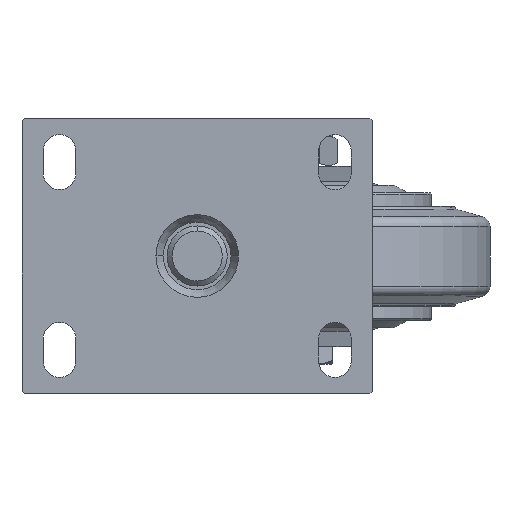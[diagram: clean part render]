
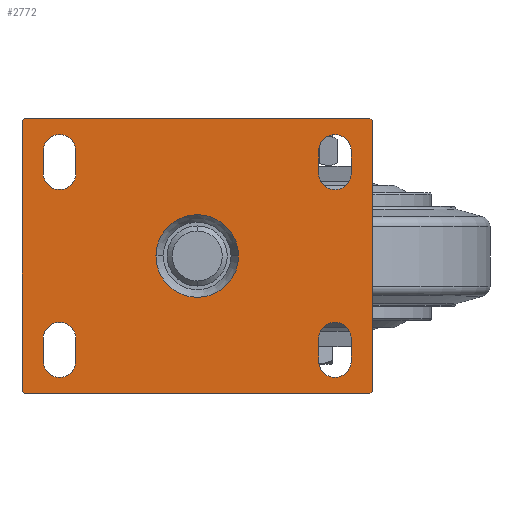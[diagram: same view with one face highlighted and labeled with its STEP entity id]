
A CAD part, top view. The second image highlights one B-rep face of the part: STEP entity #2772.
In plain terms, the highlighted planar face has unit normal (0, 0, 1).
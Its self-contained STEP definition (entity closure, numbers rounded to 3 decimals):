
#2129=DIRECTION('',(0.707,-0.707,0.));
#2130=VECTOR('',#2129,1.414);
#2131=CARTESIAN_POINT('',(-112.,-54.,122.));
#2132=LINE('',#2131,#2130);
#2133=DIRECTION('',(0.,-1.,0.));
#2134=VECTOR('',#2133,108.);
#2135=CARTESIAN_POINT('',(-112.,54.,122.));
#2136=LINE('',#2135,#2134);
#2137=DIRECTION('',(-0.707,-0.707,0.));
#2138=VECTOR('',#2137,1.414);
#2139=CARTESIAN_POINT('',(-111.,55.,122.));
#2140=LINE('',#2139,#2138);
#2141=DIRECTION('',(-1.,0.,0.));
#2142=VECTOR('',#2141,138.);
#2143=CARTESIAN_POINT('',(27.,55.,122.));
#2144=LINE('',#2143,#2142);
#2145=DIRECTION('',(-0.707,0.707,0.));
#2146=VECTOR('',#2145,1.414);
#2147=CARTESIAN_POINT('',(28.,54.,122.));
#2148=LINE('',#2147,#2146);
#2149=DIRECTION('',(0.,1.,0.));
#2150=VECTOR('',#2149,108.);
#2151=CARTESIAN_POINT('',(28.,-54.,122.));
#2152=LINE('',#2151,#2150);
#2153=DIRECTION('',(0.707,0.707,0.));
#2154=VECTOR('',#2153,1.414);
#2155=CARTESIAN_POINT('',(27.,-55.,122.));
#2156=LINE('',#2155,#2154);
#2157=DIRECTION('',(1.,0.,0.));
#2158=VECTOR('',#2157,138.);
#2159=CARTESIAN_POINT('',(-111.,-55.,122.));
#2160=LINE('',#2159,#2158);
#2161=CARTESIAN_POINT('',(-42.,0.,122.));
#2162=DIRECTION('',(0.,0.,-1.));
#2163=DIRECTION('',(-1.,0.,0.));
#2164=AXIS2_PLACEMENT_3D('',#2161,#2162,#2163);
#2166=CARTESIAN_POINT('',(-42.,0.,122.));
#2167=DIRECTION('',(0.,0.,-1.));
#2168=DIRECTION('',(1.,0.,0.));
#2169=AXIS2_PLACEMENT_3D('',#2166,#2167,#2168);
#2171=CARTESIAN_POINT('',(13.,33.,122.));
#2172=DIRECTION('',(0.,0.,1.));
#2173=DIRECTION('',(-1.,0.,0.));
#2174=AXIS2_PLACEMENT_3D('',#2171,#2172,#2173);
#2176=DIRECTION('',(0.,1.,0.));
#2177=VECTOR('',#2176,9.);
#2178=CARTESIAN_POINT('',(19.5,33.,122.));
#2179=LINE('',#2178,#2177);
#2180=CARTESIAN_POINT('',(13.,42.,122.));
#2181=DIRECTION('',(0.,0.,1.));
#2182=DIRECTION('',(1.,0.,0.));
#2183=AXIS2_PLACEMENT_3D('',#2180,#2181,#2182);
#2185=DIRECTION('',(0.,-1.,0.));
#2186=VECTOR('',#2185,9.);
#2187=CARTESIAN_POINT('',(6.5,42.,122.));
#2188=LINE('',#2187,#2186);
#2189=CARTESIAN_POINT('',(-97.,33.,122.));
#2190=DIRECTION('',(0.,0.,-1.));
#2191=DIRECTION('',(1.,0.,0.));
#2192=AXIS2_PLACEMENT_3D('',#2189,#2190,#2191);
#2194=DIRECTION('',(0.,-1.,0.));
#2195=VECTOR('',#2194,9.);
#2196=CARTESIAN_POINT('',(-90.5,42.,122.));
#2197=LINE('',#2196,#2195);
#2198=CARTESIAN_POINT('',(-97.,42.,122.));
#2199=DIRECTION('',(0.,0.,-1.));
#2200=DIRECTION('',(-1.,0.,0.));
#2201=AXIS2_PLACEMENT_3D('',#2198,#2199,#2200);
#2203=DIRECTION('',(0.,1.,0.));
#2204=VECTOR('',#2203,9.);
#2205=CARTESIAN_POINT('',(-103.5,33.,122.));
#2206=LINE('',#2205,#2204);
#2207=CARTESIAN_POINT('',(13.,-33.,122.));
#2208=DIRECTION('',(0.,0.,-1.));
#2209=DIRECTION('',(-1.,0.,0.));
#2210=AXIS2_PLACEMENT_3D('',#2207,#2208,#2209);
#2212=DIRECTION('',(0.,1.,0.));
#2213=VECTOR('',#2212,9.);
#2214=CARTESIAN_POINT('',(6.5,-42.,122.));
#2215=LINE('',#2214,#2213);
#2216=CARTESIAN_POINT('',(13.,-42.,122.));
#2217=DIRECTION('',(0.,0.,-1.));
#2218=DIRECTION('',(1.,0.,0.));
#2219=AXIS2_PLACEMENT_3D('',#2216,#2217,#2218);
#2221=DIRECTION('',(0.,-1.,0.));
#2222=VECTOR('',#2221,9.);
#2223=CARTESIAN_POINT('',(19.5,-33.,122.));
#2224=LINE('',#2223,#2222);
#2225=CARTESIAN_POINT('',(-97.,-33.,122.));
#2226=DIRECTION('',(0.,0.,1.));
#2227=DIRECTION('',(1.,0.,0.));
#2228=AXIS2_PLACEMENT_3D('',#2225,#2226,#2227);
#2230=DIRECTION('',(0.,-1.,0.));
#2231=VECTOR('',#2230,9.);
#2232=CARTESIAN_POINT('',(-103.5,-33.,122.));
#2233=LINE('',#2232,#2231);
#2234=CARTESIAN_POINT('',(-97.,-42.,122.));
#2235=DIRECTION('',(0.,0.,1.));
#2236=DIRECTION('',(-1.,0.,0.));
#2237=AXIS2_PLACEMENT_3D('',#2234,#2235,#2236);
#2239=DIRECTION('',(0.,1.,0.));
#2240=VECTOR('',#2239,9.);
#2241=CARTESIAN_POINT('',(-90.5,-42.,122.));
#2242=LINE('',#2241,#2240);
#2341=CARTESIAN_POINT('',(-112.,-54.,122.));
#2342=VERTEX_POINT('',#2341);
#2343=CARTESIAN_POINT('',(-111.,-55.,122.));
#2344=VERTEX_POINT('',#2343);
#2349=CARTESIAN_POINT('',(-111.,55.,122.));
#2350=VERTEX_POINT('',#2349);
#2351=CARTESIAN_POINT('',(-112.,54.,122.));
#2352=VERTEX_POINT('',#2351);
#2357=CARTESIAN_POINT('',(27.,-55.,122.));
#2358=VERTEX_POINT('',#2357);
#2359=CARTESIAN_POINT('',(28.,-54.,122.));
#2360=VERTEX_POINT('',#2359);
#2365=CARTESIAN_POINT('',(28.,54.,122.));
#2366=VERTEX_POINT('',#2365);
#2367=CARTESIAN_POINT('',(27.,55.,122.));
#2368=VERTEX_POINT('',#2367);
#2369=CARTESIAN_POINT('',(-58.5,0.,122.));
#2370=CARTESIAN_POINT('',(-25.5,0.,122.));
#2371=VERTEX_POINT('',#2369);
#2372=VERTEX_POINT('',#2370);
#2385=CARTESIAN_POINT('',(6.5,33.,122.));
#2386=CARTESIAN_POINT('',(19.5,33.,122.));
#2387=VERTEX_POINT('',#2385);
#2388=VERTEX_POINT('',#2386);
#2389=CARTESIAN_POINT('',(19.5,42.,122.));
#2390=VERTEX_POINT('',#2389);
#2391=CARTESIAN_POINT('',(6.5,42.,122.));
#2392=VERTEX_POINT('',#2391);
#2394=CARTESIAN_POINT('',(-90.5,33.,122.));
#2396=VERTEX_POINT('',#2394);
#2398=CARTESIAN_POINT('',(-103.5,33.,122.));
#2400=VERTEX_POINT('',#2398);
#2402=CARTESIAN_POINT('',(-103.5,42.,122.));
#2404=VERTEX_POINT('',#2402);
#2406=CARTESIAN_POINT('',(-90.5,42.,122.));
#2408=VERTEX_POINT('',#2406);
#2410=CARTESIAN_POINT('',(6.5,-33.,122.));
#2412=VERTEX_POINT('',#2410);
#2414=CARTESIAN_POINT('',(19.5,-33.,122.));
#2416=VERTEX_POINT('',#2414);
#2418=CARTESIAN_POINT('',(19.5,-42.,122.));
#2420=VERTEX_POINT('',#2418);
#2422=CARTESIAN_POINT('',(6.5,-42.,122.));
#2424=VERTEX_POINT('',#2422);
#2426=CARTESIAN_POINT('',(-90.5,-33.,122.));
#2428=VERTEX_POINT('',#2426);
#2430=CARTESIAN_POINT('',(-103.5,-33.,122.));
#2432=VERTEX_POINT('',#2430);
#2434=CARTESIAN_POINT('',(-103.5,-42.,122.));
#2436=VERTEX_POINT('',#2434);
#2438=CARTESIAN_POINT('',(-90.5,-42.,122.));
#2440=VERTEX_POINT('',#2438);
#2711=CARTESIAN_POINT('',(-42.,0.,122.));
#2712=DIRECTION('',(0.,0.,1.));
#2713=DIRECTION('',(-1.,0.,0.));
#2714=AXIS2_PLACEMENT_3D('',#2711,#2712,#2713);
#2715=PLANE('',#2714);
#2716=ORIENTED_EDGE('',*,*,#2551,.F.);
#2717=ORIENTED_EDGE('',*,*,#2574,.F.);
#2718=ORIENTED_EDGE('',*,*,#2594,.F.);
#2719=ORIENTED_EDGE('',*,*,#2616,.F.);
#2720=ORIENTED_EDGE('',*,*,#2636,.F.);
#2721=ORIENTED_EDGE('',*,*,#2656,.F.);
#2722=ORIENTED_EDGE('',*,*,#2678,.F.);
#2723=ORIENTED_EDGE('',*,*,#2697,.F.);
#2724=EDGE_LOOP('',(#2716,#2717,#2718,#2719,#2720,#2721,#2722,#2723));
#2725=FACE_OUTER_BOUND('',#2724,.F.);
#2727=ORIENTED_EDGE('',*,*,#2726,.F.);
#2729=ORIENTED_EDGE('',*,*,#2728,.F.);
#2730=EDGE_LOOP('',(#2727,#2729));
#2731=FACE_BOUND('',#2730,.F.);
#2733=ORIENTED_EDGE('',*,*,#2732,.T.);
#2735=ORIENTED_EDGE('',*,*,#2734,.T.);
#2737=ORIENTED_EDGE('',*,*,#2736,.T.);
#2739=ORIENTED_EDGE('',*,*,#2738,.T.);
#2740=EDGE_LOOP('',(#2733,#2735,#2737,#2739));
#2741=FACE_BOUND('',#2740,.F.);
#2743=ORIENTED_EDGE('',*,*,#2742,.F.);
#2745=ORIENTED_EDGE('',*,*,#2744,.F.);
#2747=ORIENTED_EDGE('',*,*,#2746,.F.);
#2749=ORIENTED_EDGE('',*,*,#2748,.F.);
#2750=EDGE_LOOP('',(#2743,#2745,#2747,#2749));
#2751=FACE_BOUND('',#2750,.F.);
#2753=ORIENTED_EDGE('',*,*,#2752,.F.);
#2755=ORIENTED_EDGE('',*,*,#2754,.F.);
#2757=ORIENTED_EDGE('',*,*,#2756,.F.);
#2759=ORIENTED_EDGE('',*,*,#2758,.F.);
#2760=EDGE_LOOP('',(#2753,#2755,#2757,#2759));
#2761=FACE_BOUND('',#2760,.F.);
#2763=ORIENTED_EDGE('',*,*,#2762,.T.);
#2765=ORIENTED_EDGE('',*,*,#2764,.T.);
#2767=ORIENTED_EDGE('',*,*,#2766,.T.);
#2769=ORIENTED_EDGE('',*,*,#2768,.T.);
#2770=EDGE_LOOP('',(#2763,#2765,#2767,#2769));
#2771=FACE_BOUND('',#2770,.F.);
#2772=ADVANCED_FACE('',(#2725,#2731,#2741,#2751,#2761,#2771),#2715,.T.);
#2165=CIRCLE('',#2164,16.5);
#2170=CIRCLE('',#2169,16.5);
#2175=CIRCLE('',#2174,6.5);
#2184=CIRCLE('',#2183,6.5);
#2193=CIRCLE('',#2192,6.5);
#2202=CIRCLE('',#2201,6.5);
#2211=CIRCLE('',#2210,6.5);
#2220=CIRCLE('',#2219,6.5);
#2229=CIRCLE('',#2228,6.5);
#2238=CIRCLE('',#2237,6.5);
#2551=EDGE_CURVE('',#2342,#2344,#2132,.T.);
#2574=EDGE_CURVE('',#2352,#2342,#2136,.T.);
#2594=EDGE_CURVE('',#2350,#2352,#2140,.T.);
#2616=EDGE_CURVE('',#2368,#2350,#2144,.T.);
#2636=EDGE_CURVE('',#2366,#2368,#2148,.T.);
#2656=EDGE_CURVE('',#2360,#2366,#2152,.T.);
#2678=EDGE_CURVE('',#2358,#2360,#2156,.T.);
#2697=EDGE_CURVE('',#2344,#2358,#2160,.T.);
#2726=EDGE_CURVE('',#2371,#2372,#2165,.T.);
#2728=EDGE_CURVE('',#2372,#2371,#2170,.T.);
#2732=EDGE_CURVE('',#2387,#2388,#2175,.T.);
#2734=EDGE_CURVE('',#2388,#2390,#2179,.T.);
#2736=EDGE_CURVE('',#2390,#2392,#2184,.T.);
#2738=EDGE_CURVE('',#2392,#2387,#2188,.T.);
#2742=EDGE_CURVE('',#2396,#2400,#2193,.T.);
#2744=EDGE_CURVE('',#2408,#2396,#2197,.T.);
#2746=EDGE_CURVE('',#2404,#2408,#2202,.T.);
#2748=EDGE_CURVE('',#2400,#2404,#2206,.T.);
#2752=EDGE_CURVE('',#2412,#2416,#2211,.T.);
#2754=EDGE_CURVE('',#2424,#2412,#2215,.T.);
#2756=EDGE_CURVE('',#2420,#2424,#2220,.T.);
#2758=EDGE_CURVE('',#2416,#2420,#2224,.T.);
#2762=EDGE_CURVE('',#2428,#2432,#2229,.T.);
#2764=EDGE_CURVE('',#2432,#2436,#2233,.T.);
#2766=EDGE_CURVE('',#2436,#2440,#2238,.T.);
#2768=EDGE_CURVE('',#2440,#2428,#2242,.T.);
